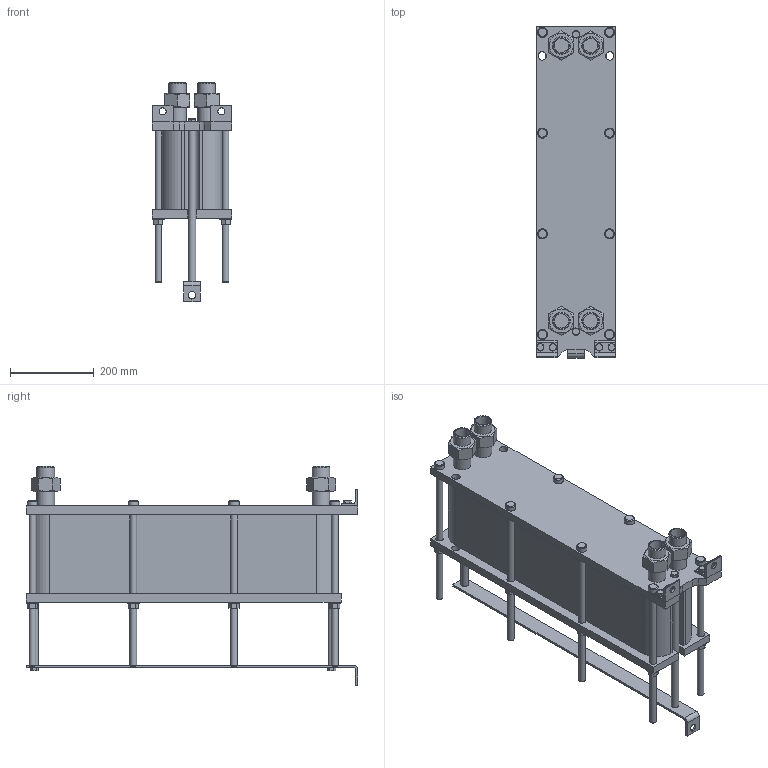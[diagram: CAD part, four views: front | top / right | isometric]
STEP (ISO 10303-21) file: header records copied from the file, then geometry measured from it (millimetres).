
FILE_DESCRIPTION(/* description */ (''),/* implementation_level */ '2;1');
FILE_NAME(/* name */ 'C:\Users\zhuro\Desktop\ENCO\TO\ЭН-008\ЭН-0,5-008-61-1.stp',/* time_stamp */ '2022-06-06T10:50:30+03:00',/* author */ ('zhuro'),/* organization */ (''),/* preprocessor_version */ 'ST-DEVELOPER v18.1',/* originating_system */ 'Autodesk Inventor 2022',/* authorisation */ '');
FILE_SCHEMA (('AUTOMOTIVE_DESIGN { 1 0 10303 214 3 1 1 }'));
Length unit declared in the file: millimetre
Products named in the file (1): ЭН-0,5-008-61-1
Bounding box: 190 x 790 x 521.8 mm (x, y, z)
Volume: 26082701.7 mm3; surface area: 1691630.4 mm2
Topology: 40 solids, 40 shells, 428 faces, 924 edges, 606 vertices
Faces by surface type: plane 273, cylinder 109, cone 40, torus 6
Full cylindrical faces by diameter (mm): 12 x6, 14 x2, 16 x20, 17 x8, 18 x19, 20 x5, 24 x8, 28 x8, 34.3 x8, 42.3 x8
Entity records: 15843 total; most frequent: CARTESIAN_POINT 5991, DIRECTION 1984, ORIENTED_EDGE 1848, EDGE_CURVE 924, AXIS2_PLACEMENT_3D 715, VERTEX_POINT 606, LINE 554, VECTOR 554
